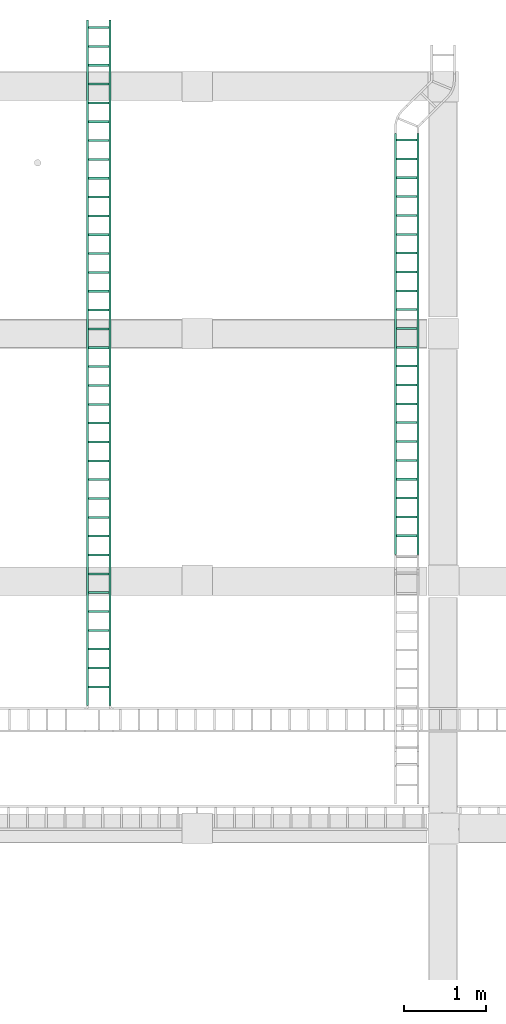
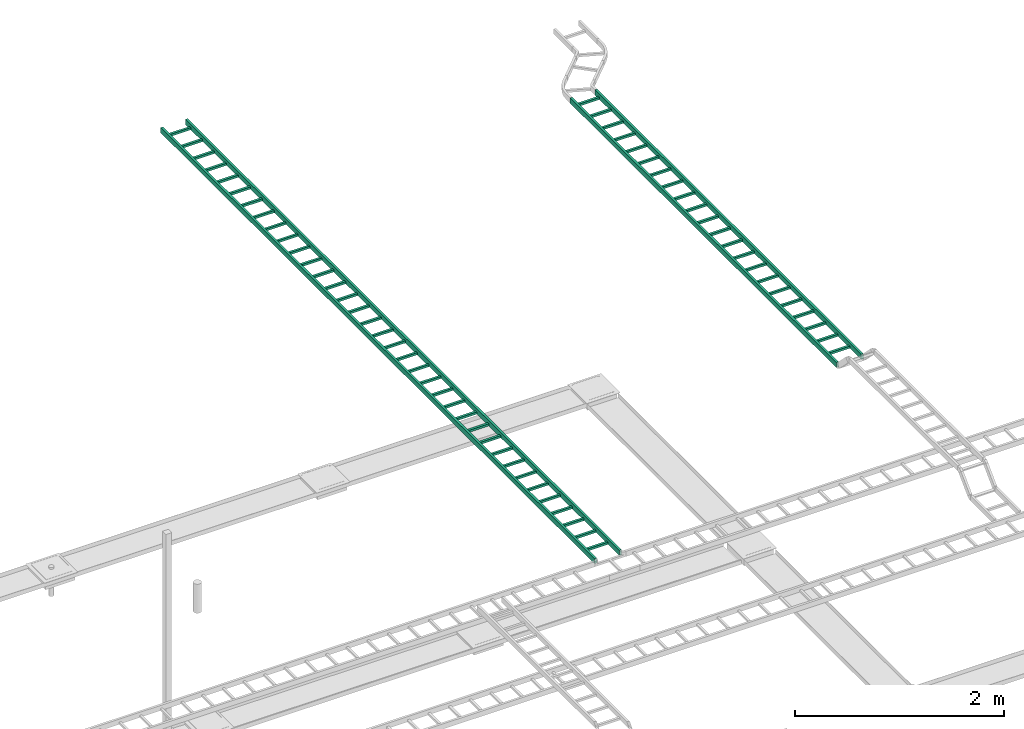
# One storey, part 13 of 16: 2 flow segments.
"""IFC2X3 building model written with IfcOpenShell, lengths in millimetres."""

from ifc_helpers import new_model, entity, si_unit, converted_unit, derived_unit, direction, frame, origin_with_axes, place, context, subcontext, project, spatial, open_shell, surface_model, source, transform, mapped, type_object, element, save


model = new_model("IFC2X3")

# Units and contexts
model_context = context("Model", 3, precision=0.01, world=frame((0.0, 4.29681676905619e-09, 0.0)), true_north=direction((4.01073788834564e-13, 1.0)))
plan_context = context("Plan", 3, precision=0.01, world=frame((0.0, 4.29681676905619e-09, 0.0)), true_north=direction((4.01073788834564e-13, 1.0)))
body_context = subcontext(model_context, "Body", "Model", "MODEL_VIEW")
ifc_project = project(units=[converted_unit("PLANEANGLEUNIT", "DEGREE", entity("IfcPositiveLengthMeasure", 0.0174532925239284), si_unit("PLANEANGLEUNIT", "RADIAN"), dimensions=[0, 0, 0, 0, 0, 0, 0]), si_unit("AREAUNIT", "SQUARE_METRE"), si_unit("LENGTHUNIT", "METRE", prefix="MILLI"), si_unit("MASSUNIT", "GRAM", prefix="KILO"), si_unit("POWERUNIT", "WATT"), si_unit("PRESSUREUNIT", "PASCAL"), si_unit("FORCEUNIT", "NEWTON", prefix="KILO"), si_unit("ELECTRICVOLTAGEUNIT", "VOLT"), si_unit("ELECTRICCURRENTUNIT", "AMPERE"), si_unit("THERMODYNAMICTEMPERATUREUNIT", "DEGREE_CELSIUS"), si_unit("TIMEUNIT", "SECOND"), si_unit("VOLUMEUNIT", "CUBIC_METRE"), derived_unit("LINEARVELOCITYUNIT", [(si_unit("LENGTHUNIT", "METRE"), 1), (si_unit("TIMEUNIT", "SECOND"), -1)]), derived_unit("VOLUMETRICFLOWRATEUNIT", [(si_unit("VOLUMEUNIT", "CUBIC_METRE"), 1), (si_unit("TIMEUNIT", "SECOND"), -1)]), derived_unit("THERMALTRANSMITTANCEUNIT", [(si_unit("POWERUNIT", "WATT"), 1), (si_unit("THERMODYNAMICTEMPERATUREUNIT", "KELVIN"), -1), (si_unit("AREAUNIT", "SQUARE_METRE"), -1)]), derived_unit("SOUNDPRESSUREUNIT", [(si_unit("PRESSUREUNIT", "PASCAL"), 1)])], contexts=[model_context, plan_context])

# Site, building, storey
site_placement = place(None, frame((0.0, -4.29681676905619e-09, 0.0), z_axis=(0.0, 0.0, 1.0), x_axis=(1.0, 0.0, 0.0)))
site = spatial("IfcSite", under=ifc_project, at=site_placement, Name="ENGM", CompositionType="ELEMENT")
building_placement = place(site_placement, frame((0.0, 4.29681676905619e-09, 0.0), z_axis=(0.0, 0.0, 1.0), x_axis=(1.0, 0.0, 0.0)))
building = spatial("IfcBuilding", under=site, at=building_placement, Name="TS", CompositionType="ELEMENT")
storey_placement = place(building_placement, frame((0.0, 0.0, 210900.0), z_axis=(0.0, 0.0, 1.0), x_axis=(1.0, 0.0, 0.0)))
storey = spatial("IfcBuildingStorey", under=building, at=storey_placement, Name="Nivå F", CompositionType="ELEMENT", Elevation=210900.0)

# Flow segments
cable_carrier_segment_type = type_object("IfcCableCarrierSegmentType", Name="Kabelbro", PredefinedType="CABLELADDERSEGMENT")
shared_shape_1 = source(origin_with_axes(), body_context, "Body", "SurfaceModel", [
    surface_model("IfcShellBasedSurfaceModel", [(241.30001, -124.6, -4.6), (241.30001, -124.6, -30.0), (241.30001, 124.6, -30.0), (241.30001, 124.6, -4.6), (215.89999, -124.6, -4.6), (215.89999, 124.6, -4.6), (215.89999, -124.6, -30.0), (215.89999, 124.6, -30.0), (469.89999, -124.6, -4.6), (469.89999, -124.6, -30.0), (469.89999, 124.6, -30.0), (469.89999, 124.6, -4.6), (444.50001, -124.6, -4.6), (444.50001, 124.6, -4.6), (444.50001, -124.6, -30.0), (444.50001, 124.6, -30.0), (698.50002, -124.6, -4.6), (698.50002, -124.6, -30.0), (698.50002, 124.6, -30.0), (698.50002, 124.6, -4.6), (673.09998, -124.6, -4.6), (673.09998, 124.6, -4.6), (673.09998, -124.6, -30.0), (673.09998, 124.6, -30.0), (927.10002, -124.6, -4.6), (927.10002, -124.6, -30.0), (927.10002, 124.6, -30.0), (927.10002, 124.6, -4.6), (901.69998, -124.6, -4.6), (901.69998, 124.6, -4.6), (901.69998, -124.6, -30.0), (901.69998, 124.6, -30.0), (1155.70002, -124.6, -4.6), (1155.70002, -124.6, -30.0), (1155.70002, 124.6, -30.0), (1155.70002, 124.6, -4.6), (1130.29998, -124.6, -4.6), (1130.29998, 124.6, -4.6), (1130.29998, -124.6, -30.0), (1130.29998, 124.6, -30.0), (1384.29995, -124.6, -4.6), (1384.29995, -124.6, -30.0), (1384.29995, 124.6, -30.0), (1384.29995, 124.6, -4.6), (1358.90005, -124.6, -4.6), (1358.90005, 124.6, -4.6), (1358.90005, -124.6, -30.0), (1358.90005, 124.6, -30.0), (1612.89995, -124.6, -4.6), (1612.89995, -124.6, -30.0), (1612.89995, 124.6, -30.0), (1612.89995, 124.6, -4.6), (1587.50005, -124.6, -4.6), (1587.50005, 124.6, -4.6), (1587.50005, -124.6, -30.0), (1587.50005, 124.6, -30.0), (1841.49995, -124.6, -4.6), (1841.49995, -124.6, -30.0), (1841.49995, 124.6, -30.0), (1841.49995, 124.6, -4.6), (1816.10005, -124.6, -4.6), (1816.10005, 124.6, -4.6), (1816.10005, -124.6, -30.0), (1816.10005, 124.6, -30.0), (2070.09995, -124.6, -4.6), (2070.09995, -124.6, -30.0), (2070.09995, 124.6, -30.0), (2070.09995, 124.6, -4.6), (2044.70005, -124.6, -4.6), (2044.70005, 124.6, -4.6), (2044.70005, -124.6, -30.0), (2044.70005, 124.6, -30.0), (2298.69995, -124.6, -4.6), (2298.69995, -124.6, -30.0), (2298.69995, 124.6, -30.0), (2298.69995, 124.6, -4.6), (2273.30005, -124.6, -4.6), (2273.30005, 124.6, -4.6), (2273.30005, -124.6, -30.0), (2273.30005, 124.6, -30.0), (2527.3001, -124.6, -4.6), (2527.3001, -124.6, -30.0), (2527.3001, 124.6, -30.0), (2527.3001, 124.6, -4.6), (2501.8999, -124.6, -4.6), (2501.8999, 124.6, -4.6), (2501.8999, -124.6, -30.0), (2501.8999, 124.6, -30.0), (2755.9001, -124.6, -4.6), (2755.9001, -124.6, -30.0), (2755.9001, 124.6, -30.0), (2755.9001, 124.6, -4.6), (2730.4999, -124.6, -4.6), (2730.4999, 124.6, -4.6), (2730.4999, -124.6, -30.0), (2730.4999, 124.6, -30.0), (2984.5001, -124.6, -4.6), (2984.5001, -124.6, -30.0), (2984.5001, 124.6, -30.0), (2984.5001, 124.6, -4.6), (2959.0999, -124.6, -4.6), (2959.0999, 124.6, -4.6), (2959.0999, -124.6, -30.0), (2959.0999, 124.6, -30.0), (3213.1001, -124.6, -4.6), (3213.1001, -124.6, -30.0), (3213.1001, 124.6, -30.0), (3213.1001, 124.6, -4.6), (3187.6999, -124.6, -4.6), (3187.6999, 124.6, -4.6), (3187.6999, -124.6, -30.0), (3187.6999, 124.6, -30.0), (3441.7001, -124.6, -4.6), (3441.7001, -124.6, -30.0), (3441.7001, 124.6, -30.0), (3441.7001, 124.6, -4.6), (3416.2999, -124.6, -4.6), (3416.2999, 124.6, -4.6), (3416.2999, -124.6, -30.0), (3416.2999, 124.6, -30.0), (3670.3001, -124.6, -4.6), (3670.3001, -124.6, -30.0), (3670.3001, 124.6, -30.0), (3670.3001, 124.6, -4.6), (3644.8999, -124.6, -4.6), (3644.8999, 124.6, -4.6), (3644.8999, -124.6, -30.0), (3644.8999, 124.6, -30.0), (3898.9001, -124.6, -4.6), (3898.9001, -124.6, -30.0), (3898.9001, 124.6, -30.0), (3898.9001, 124.6, -4.6), (3873.4999, -124.6, -4.6), (3873.4999, 124.6, -4.6), (3873.4999, -124.6, -30.0), (3873.4999, 124.6, -30.0), (4127.5001, -124.6, -4.6), (4127.5001, -124.6, -30.0), (4127.5001, 124.6, -30.0), (4127.5001, 124.6, -4.6), (4102.0999, -124.6, -4.6), (4102.0999, 124.6, -4.6), (4102.0999, -124.6, -30.0), (4102.0999, 124.6, -30.0), (4356.1001, -124.6, -4.6), (4356.1001, -124.6, -30.0), (4356.1001, 124.6, -30.0), (4356.1001, 124.6, -4.6), (4330.6999, -124.6, -4.6), (4330.6999, 124.6, -4.6), (4330.6999, -124.6, -30.0), (4330.6999, 124.6, -30.0), (4584.7001, -124.6, -4.6), (4584.7001, -124.6, -30.0), (4584.7001, 124.6, -30.0), (4584.7001, 124.6, -4.6), (4559.2999, -124.6, -4.6), (4559.2999, 124.6, -4.6), (4559.2999, -124.6, -30.0), (4559.2999, 124.6, -30.0), (4813.3001, -124.6, -4.6), (4813.3001, -124.6, -30.0), (4813.3001, 124.6, -30.0), (4813.3001, 124.6, -4.6), (4787.8999, -124.6, -4.6), (4787.8999, 124.6, -4.6), (4787.8999, -124.6, -30.0), (4787.8999, 124.6, -30.0), (5041.89981, -124.6, -4.6), (5041.89981, -124.6, -30.0), (5041.89981, 124.6, -30.0), (5041.89981, 124.6, -4.6), (5016.50019, -124.6, -4.6), (5016.50019, 124.6, -4.6), (5016.50019, -124.6, -30.0), (5016.50019, 124.6, -30.0), (5270.49981, -124.6, -4.6), (5270.49981, -124.6, -30.0), (5270.49981, 124.6, -30.0), (5270.49981, 124.6, -4.6), (5245.10019, -124.6, -4.6), (5245.10019, 124.6, -4.6), (5245.10019, -124.6, -30.0), (5245.10019, 124.6, -30.0), (0.0, -124.6, 30.0), (0.0, -124.6, -30.0), (0.0, -150.0, -30.0), (0.0, -150.0, 30.0), (0.0, 150.0, 30.0), (0.0, 150.0, -30.0), (0.0, 124.6, -30.0), (0.0, 124.6, 30.0), (5473.70019, -124.6, -30.0), (5499.09981, -124.6, -30.0), (5499.09981, -124.6, -4.6), (5473.70019, -124.6, -4.6), (5499.09981, 124.6, -4.6), (5499.09981, 124.6, -30.0), (5473.70019, 124.6, -30.0), (5473.70019, 124.6, -4.6), (5702.30019, -124.6, -30.0), (5727.69981, -124.6, -30.0), (5727.69981, -124.6, -4.6), (5702.30019, -124.6, -4.6), (5727.69981, 124.6, -4.6), (5727.69981, 124.6, -30.0), (5702.30019, 124.6, -30.0), (5702.30019, 124.6, -4.6), (5930.90019, -124.6, -30.0), (5956.29981, -124.6, -30.0), (5956.29981, -124.6, -4.6), (5930.90019, -124.6, -4.6), (5956.29981, 124.6, -4.6), (5956.29981, 124.6, -30.0), (5930.90019, 124.6, -30.0), (5930.90019, 124.6, -4.6), (6159.50019, -124.6, -30.0), (6184.89981, -124.6, -30.0), (6184.89981, -124.6, -4.6), (6159.50019, -124.6, -4.6), (6184.89981, 124.6, -4.6), (6184.89981, 124.6, -30.0), (6159.50019, 124.6, -30.0), (6159.50019, 124.6, -4.6), (6388.10019, -124.6, -30.0), (6413.49981, -124.6, -30.0), (6413.49981, -124.6, -4.6), (6388.10019, -124.6, -4.6), (6413.49981, 124.6, -4.6), (6413.49981, 124.6, -30.0), (6388.10019, 124.6, -30.0), (6388.10019, 124.6, -4.6), (6616.70019, -124.6, -30.0), (6642.09981, -124.6, -30.0), (6642.09981, -124.6, -4.6), (6616.70019, -124.6, -4.6), (6642.09981, 124.6, -4.6), (6642.09981, 124.6, -30.0), (6616.70019, 124.6, -30.0), (6616.70019, 124.6, -4.6), (6845.30019, -124.6, -30.0), (6870.69981, -124.6, -30.0), (6870.69981, -124.6, -4.6), (6845.30019, -124.6, -4.6), (6870.69981, 124.6, -4.6), (6870.69981, 124.6, -30.0), (6845.30019, 124.6, -30.0), (6845.30019, 124.6, -4.6), (7073.90019, -124.6, -30.0), (7099.29981, -124.6, -30.0), (7099.29981, -124.6, -4.6), (7073.90019, -124.6, -4.6), (7099.29981, 124.6, -4.6), (7099.29981, 124.6, -30.0), (7073.90019, 124.6, -30.0), (7073.90019, 124.6, -4.6), (7302.50019, -124.6, -30.0), (7327.89981, -124.6, -30.0), (7327.89981, -124.6, -4.6), (7302.50019, -124.6, -4.6), (7327.89981, 124.6, -4.6), (7327.89981, 124.6, -30.0), (7302.50019, 124.6, -30.0), (7302.50019, 124.6, -4.6), (7556.49981, -124.6, -4.6), (7556.49981, -124.6, -30.0), (7556.49981, 124.6, -30.0), (7556.49981, 124.6, -4.6), (7531.10019, -124.6, -4.6), (7531.10019, 124.6, -4.6), (7531.10019, -124.6, -30.0), (7531.10019, 124.6, -30.0), (7785.09981, -124.6, -4.6), (7785.09981, -124.6, -30.0), (7785.09981, 124.6, -30.0), (7785.09981, 124.6, -4.6), (7759.70019, -124.6, -4.6), (7759.70019, 124.6, -4.6), (7759.70019, -124.6, -30.0), (7759.70019, 124.6, -30.0), (8013.69981, -124.6, -4.6), (8013.69981, -124.6, -30.0), (8013.69981, 124.6, -30.0), (8013.69981, 124.6, -4.6), (7988.30019, -124.6, -4.6), (7988.30019, 124.6, -4.6), (7988.30019, -124.6, -30.0), (7988.30019, 124.6, -30.0), (8242.29981, -124.6, -4.6), (8242.29981, -124.6, -30.0), (8242.29981, 124.6, -30.0), (8242.29981, 124.6, -4.6), (8216.90019, -124.6, -4.6), (8216.90019, 124.6, -4.6), (8216.90019, -124.6, -30.0), (8216.90019, 124.6, -30.0), (8321.04035, -150.0, -30.0), (8321.04035, -124.6, -30.0), (8321.04035, -124.6, 30.0), (8321.04035, -150.0, 30.0), (8321.04035, 124.6, -30.0), (8321.04035, 150.0, -30.0), (8321.04035, 150.0, 30.0), (8321.04035, 124.6, 30.0)], [open_shell([[[0, 1, 2]], [[2, 3, 0]], [[4, 0, 5]], [[3, 5, 0]], [[6, 4, 5]], [[5, 7, 6]], [[1, 6, 2]], [[7, 2, 6]], [[8, 9, 10]], [[10, 11, 8]], [[12, 8, 13]], [[11, 13, 8]], [[14, 12, 13]], [[13, 15, 14]], [[9, 14, 10]], [[15, 10, 14]], [[16, 17, 18]], [[18, 19, 16]], [[20, 16, 21]], [[19, 21, 16]], [[22, 20, 21]], [[21, 23, 22]], [[17, 22, 18]], [[23, 18, 22]], [[24, 25, 26]], [[26, 27, 24]], [[28, 24, 29]], [[27, 29, 24]], [[30, 28, 29]], [[29, 31, 30]], [[25, 30, 26]], [[31, 26, 30]], [[32, 33, 34]], [[34, 35, 32]], [[36, 32, 37]], [[35, 37, 32]], [[38, 36, 37]], [[37, 39, 38]], [[33, 38, 34]], [[39, 34, 38]], [[40, 41, 42]], [[42, 43, 40]], [[44, 40, 45]], [[43, 45, 40]], [[46, 44, 45]], [[45, 47, 46]], [[41, 46, 42]], [[47, 42, 46]], [[48, 49, 50]], [[50, 51, 48]], [[52, 48, 53]], [[51, 53, 48]], [[54, 52, 53]], [[53, 55, 54]], [[49, 54, 50]], [[55, 50, 54]], [[56, 57, 58]], [[58, 59, 56]], [[60, 56, 61]], [[59, 61, 56]], [[62, 60, 61]], [[61, 63, 62]], [[57, 62, 58]], [[63, 58, 62]], [[64, 65, 66]], [[66, 67, 64]], [[68, 64, 69]], [[67, 69, 64]], [[70, 68, 69]], [[69, 71, 70]], [[65, 70, 66]], [[71, 66, 70]], [[72, 73, 74]], [[74, 75, 72]], [[76, 72, 77]], [[75, 77, 72]], [[78, 76, 77]], [[77, 79, 78]], [[73, 78, 74]], [[79, 74, 78]], [[80, 81, 82]], [[82, 83, 80]], [[84, 80, 85]], [[83, 85, 80]], [[86, 84, 85]], [[85, 87, 86]], [[81, 86, 82]], [[87, 82, 86]], [[88, 89, 90]], [[90, 91, 88]], [[92, 88, 93]], [[91, 93, 88]], [[94, 92, 93]], [[93, 95, 94]], [[89, 94, 90]], [[95, 90, 94]], [[96, 97, 98]], [[98, 99, 96]], [[100, 96, 101]], [[99, 101, 96]], [[102, 100, 101]], [[101, 103, 102]], [[97, 102, 98]], [[103, 98, 102]], [[104, 105, 106]], [[106, 107, 104]], [[108, 104, 109]], [[107, 109, 104]], [[110, 108, 109]], [[109, 111, 110]], [[105, 110, 106]], [[111, 106, 110]], [[112, 113, 114]], [[114, 115, 112]], [[116, 112, 117]], [[115, 117, 112]], [[118, 116, 117]], [[117, 119, 118]], [[113, 118, 114]], [[119, 114, 118]], [[120, 121, 122]], [[122, 123, 120]], [[124, 120, 125]], [[123, 125, 120]], [[126, 124, 125]], [[125, 127, 126]], [[121, 126, 122]], [[127, 122, 126]], [[128, 129, 130]], [[130, 131, 128]], [[132, 128, 133]], [[131, 133, 128]], [[134, 132, 133]], [[133, 135, 134]], [[129, 134, 130]], [[135, 130, 134]], [[136, 137, 138]], [[138, 139, 136]], [[140, 136, 141]], [[139, 141, 136]], [[142, 140, 141]], [[141, 143, 142]], [[137, 142, 138]], [[143, 138, 142]], [[144, 145, 146]], [[146, 147, 144]], [[148, 144, 149]], [[147, 149, 144]], [[150, 148, 149]], [[149, 151, 150]], [[145, 150, 146]], [[151, 146, 150]], [[152, 153, 154]], [[154, 155, 152]], [[156, 152, 157]], [[155, 157, 152]], [[158, 156, 157]], [[157, 159, 158]], [[153, 158, 154]], [[159, 154, 158]], [[160, 161, 162]], [[162, 163, 160]], [[164, 160, 165]], [[163, 165, 160]], [[166, 164, 165]], [[165, 167, 166]], [[161, 166, 162]], [[167, 162, 166]], [[168, 169, 170]], [[170, 171, 168]], [[172, 168, 173]], [[171, 173, 168]], [[174, 172, 173]], [[173, 175, 174]], [[169, 174, 170]], [[175, 170, 174]], [[176, 177, 178]], [[178, 179, 176]], [[180, 176, 181]], [[179, 181, 176]], [[182, 180, 181]], [[181, 183, 182]], [[177, 182, 178]], [[183, 178, 182]], [[184, 185, 186]], [[186, 187, 184]], [[188, 189, 190]], [[190, 191, 188]], [[6, 1, 0]], [[0, 4, 6]], [[3, 2, 7]], [[7, 5, 3]], [[14, 9, 8]], [[8, 12, 14]], [[11, 10, 15]], [[15, 13, 11]], [[22, 17, 16]], [[16, 20, 22]], [[19, 18, 23]], [[23, 21, 19]], [[30, 25, 24]], [[24, 28, 30]], [[27, 26, 31]], [[31, 29, 27]], [[38, 33, 32]], [[32, 36, 38]], [[35, 34, 39]], [[39, 37, 35]], [[46, 41, 40]], [[40, 44, 46]], [[43, 42, 47]], [[47, 45, 43]], [[54, 49, 48]], [[48, 52, 54]], [[51, 50, 55]], [[55, 53, 51]], [[62, 57, 56]], [[56, 60, 62]], [[59, 58, 63]], [[63, 61, 59]], [[70, 65, 64]], [[64, 68, 70]], [[67, 66, 71]], [[71, 69, 67]], [[78, 73, 72]], [[72, 76, 78]], [[75, 74, 79]], [[79, 77, 75]], [[86, 81, 80]], [[80, 84, 86]], [[83, 82, 87]], [[87, 85, 83]], [[94, 89, 88]], [[88, 92, 94]], [[91, 90, 95]], [[95, 93, 91]], [[102, 97, 96]], [[96, 100, 102]], [[99, 98, 103]], [[103, 101, 99]], [[110, 105, 104]], [[104, 108, 110]], [[107, 106, 111]], [[111, 109, 107]], [[118, 113, 112]], [[112, 116, 118]], [[115, 114, 119]], [[119, 117, 115]], [[126, 121, 120]], [[120, 124, 126]], [[123, 122, 127]], [[127, 125, 123]], [[134, 129, 128]], [[128, 132, 134]], [[131, 130, 135]], [[135, 133, 131]], [[142, 137, 136]], [[136, 140, 142]], [[139, 138, 143]], [[143, 141, 139]], [[150, 145, 144]], [[144, 148, 150]], [[147, 146, 151]], [[151, 149, 147]], [[158, 153, 152]], [[152, 156, 158]], [[155, 154, 159]], [[159, 157, 155]], [[166, 161, 160]], [[160, 164, 166]], [[163, 162, 167]], [[167, 165, 163]], [[174, 169, 168]], [[168, 172, 174]], [[171, 170, 175]], [[175, 173, 171]], [[182, 177, 176]], [[176, 180, 182]], [[179, 178, 183]], [[183, 181, 179]], [[192, 193, 194]], [[194, 195, 192]], [[196, 197, 198]], [[198, 199, 196]], [[194, 193, 197]], [[197, 196, 194]], [[195, 194, 199]], [[196, 199, 194]], [[192, 195, 199]], [[199, 198, 192]], [[193, 192, 197]], [[198, 197, 192]], [[200, 201, 202]], [[202, 203, 200]], [[204, 205, 206]], [[206, 207, 204]], [[202, 201, 205]], [[205, 204, 202]], [[203, 202, 207]], [[204, 207, 202]], [[200, 203, 207]], [[207, 206, 200]], [[201, 200, 205]], [[206, 205, 200]], [[208, 209, 210]], [[210, 211, 208]], [[212, 213, 214]], [[214, 215, 212]], [[210, 209, 213]], [[213, 212, 210]], [[211, 210, 215]], [[212, 215, 210]], [[208, 211, 215]], [[215, 214, 208]], [[209, 208, 213]], [[214, 213, 208]], [[216, 217, 218]], [[218, 219, 216]], [[220, 221, 222]], [[222, 223, 220]], [[218, 217, 221]], [[221, 220, 218]], [[219, 218, 223]], [[220, 223, 218]], [[216, 219, 223]], [[223, 222, 216]], [[217, 216, 221]], [[222, 221, 216]], [[224, 225, 226]], [[226, 227, 224]], [[228, 229, 230]], [[230, 231, 228]], [[226, 225, 229]], [[229, 228, 226]], [[227, 226, 231]], [[228, 231, 226]], [[224, 227, 231]], [[231, 230, 224]], [[225, 224, 229]], [[230, 229, 224]], [[232, 233, 234]], [[234, 235, 232]], [[236, 237, 238]], [[238, 239, 236]], [[234, 233, 237]], [[237, 236, 234]], [[235, 234, 239]], [[236, 239, 234]], [[232, 235, 239]], [[239, 238, 232]], [[233, 232, 237]], [[238, 237, 232]], [[240, 241, 242]], [[242, 243, 240]], [[244, 245, 246]], [[246, 247, 244]], [[242, 241, 245]], [[245, 244, 242]], [[243, 242, 247]], [[244, 247, 242]], [[240, 243, 247]], [[247, 246, 240]], [[241, 240, 245]], [[246, 245, 240]], [[248, 249, 250]], [[250, 251, 248]], [[252, 253, 254]], [[254, 255, 252]], [[250, 249, 253]], [[253, 252, 250]], [[251, 250, 255]], [[252, 255, 250]], [[248, 251, 255]], [[255, 254, 248]], [[249, 248, 253]], [[254, 253, 248]], [[256, 257, 258]], [[258, 259, 256]], [[260, 261, 262]], [[262, 263, 260]], [[258, 257, 261]], [[261, 260, 258]], [[259, 258, 263]], [[260, 263, 258]], [[256, 259, 263]], [[263, 262, 256]], [[257, 256, 261]], [[262, 261, 256]], [[264, 265, 266]], [[266, 267, 264]], [[268, 264, 269]], [[267, 269, 264]], [[270, 268, 269]], [[269, 271, 270]], [[265, 270, 266]], [[271, 266, 270]], [[272, 273, 274]], [[274, 275, 272]], [[276, 272, 277]], [[275, 277, 272]], [[278, 276, 277]], [[277, 279, 278]], [[273, 278, 274]], [[279, 274, 278]], [[280, 281, 282]], [[282, 283, 280]], [[284, 280, 285]], [[283, 285, 280]], [[286, 284, 285]], [[285, 287, 286]], [[281, 286, 282]], [[287, 282, 286]], [[288, 289, 290]], [[290, 291, 288]], [[292, 288, 293]], [[291, 293, 288]], [[294, 292, 293]], [[293, 295, 294]], [[289, 294, 290]], [[295, 290, 294]], [[270, 265, 264]], [[264, 268, 270]], [[267, 266, 271]], [[271, 269, 267]], [[278, 273, 272]], [[272, 276, 278]], [[275, 274, 279]], [[279, 277, 275]], [[286, 281, 280]], [[280, 284, 286]], [[283, 282, 287]], [[287, 285, 283]], [[294, 289, 288]], [[288, 292, 294]], [[291, 290, 295]], [[295, 293, 291]], [[296, 297, 298]], [[298, 299, 296]], [[300, 301, 302]], [[302, 303, 300]], [[187, 186, 296]], [[296, 299, 187]], [[184, 187, 299]], [[299, 298, 184]], [[185, 184, 298]], [[298, 297, 185]], [[186, 185, 297]], [[297, 296, 186]], [[189, 188, 302]], [[302, 301, 189]], [[190, 189, 301]], [[301, 300, 190]], [[191, 190, 300]], [[300, 303, 191]], [[188, 191, 303]], [[303, 302, 188]]])]),
])
flow_segment_1_placement = place(storey_placement, frame((529313.60037, 453486.47234, 4050.0), z_axis=(0.0, 0.0, 1.0), x_axis=(0.0, 1.0, 0.0)))
element("IfcFlowSegment", 1, at=flow_segment_1_placement, inside=storey, type_object=cable_carrier_segment_type, Name="Kabelbro", context=body_context, shape_type="MappedRepresentation", body=[
    mapped(shared_shape_1, transform((0.0, 0.0, 0.0), scale=1.0)),
])
shared_shape_2 = source(origin_with_axes(), body_context, "Body", "SurfaceModel", [
    surface_model("IfcShellBasedSurfaceModel", [(241.30001, -124.6, -4.6), (241.30001, -124.6, -30.0), (241.30001, 124.6, -30.0), (241.30001, 124.6, -4.6), (215.89999, -124.6, -4.6), (215.89999, 124.6, -4.6), (215.89999, -124.6, -30.0), (215.89999, 124.6, -30.0), (469.89999, -124.6, -4.6), (469.89999, -124.6, -30.0), (469.89999, 124.6, -30.0), (469.89999, 124.6, -4.6), (444.50001, -124.6, -4.6), (444.50001, 124.6, -4.6), (444.50001, -124.6, -30.0), (444.50001, 124.6, -30.0), (698.50002, -124.6, -4.6), (698.50002, -124.6, -30.0), (698.50002, 124.6, -30.0), (698.50002, 124.6, -4.6), (673.09998, -124.6, -4.6), (673.09998, 124.6, -4.6), (673.09998, -124.6, -30.0), (673.09998, 124.6, -30.0), (927.10002, -124.6, -4.6), (927.10002, -124.6, -30.0), (927.10002, 124.6, -30.0), (927.10002, 124.6, -4.6), (901.69998, -124.6, -4.6), (901.69998, 124.6, -4.6), (901.69998, -124.6, -30.0), (901.69998, 124.6, -30.0), (1155.70002, -124.6, -4.6), (1155.70002, -124.6, -30.0), (1155.70002, 124.6, -30.0), (1155.70002, 124.6, -4.6), (1130.29998, -124.6, -4.6), (1130.29998, 124.6, -4.6), (1130.29998, -124.6, -30.0), (1130.29998, 124.6, -30.0), (1384.29995, -124.6, -4.6), (1384.29995, -124.6, -30.0), (1384.29995, 124.6, -30.0), (1384.29995, 124.6, -4.6), (1358.90005, -124.6, -4.6), (1358.90005, 124.6, -4.6), (1358.90005, -124.6, -30.0), (1358.90005, 124.6, -30.0), (1612.89995, -124.6, -4.6), (1612.89995, -124.6, -30.0), (1612.89995, 124.6, -30.0), (1612.89995, 124.6, -4.6), (1587.50005, -124.6, -4.6), (1587.50005, 124.6, -4.6), (1587.50005, -124.6, -30.0), (1587.50005, 124.6, -30.0), (1841.49995, -124.6, -4.6), (1841.49995, -124.6, -30.0), (1841.49995, 124.6, -30.0), (1841.49995, 124.6, -4.6), (1816.10005, -124.6, -4.6), (1816.10005, 124.6, -4.6), (1816.10005, -124.6, -30.0), (1816.10005, 124.6, -30.0), (2070.09995, -124.6, -4.6), (2070.09995, -124.6, -30.0), (2070.09995, 124.6, -30.0), (2070.09995, 124.6, -4.6), (2044.70005, -124.6, -4.6), (2044.70005, 124.6, -4.6), (2044.70005, -124.6, -30.0), (2044.70005, 124.6, -30.0), (2298.69995, -124.6, -4.6), (2298.69995, -124.6, -30.0), (2298.69995, 124.6, -30.0), (2298.69995, 124.6, -4.6), (2273.30005, -124.6, -4.6), (2273.30005, 124.6, -4.6), (2273.30005, -124.6, -30.0), (2273.30005, 124.6, -30.0), (2527.3001, -124.6, -4.6), (2527.3001, -124.6, -30.0), (2527.3001, 124.6, -30.0), (2527.3001, 124.6, -4.6), (2501.8999, -124.6, -4.6), (2501.8999, 124.6, -4.6), (2501.8999, -124.6, -30.0), (2501.8999, 124.6, -30.0), (2755.9001, -124.6, -4.6), (2755.9001, -124.6, -30.0), (2755.9001, 124.6, -30.0), (2755.9001, 124.6, -4.6), (2730.4999, -124.6, -4.6), (2730.4999, 124.6, -4.6), (2730.4999, -124.6, -30.0), (2730.4999, 124.6, -30.0), (2984.5001, -124.6, -4.6), (2984.5001, -124.6, -30.0), (2984.5001, 124.6, -30.0), (2984.5001, 124.6, -4.6), (2959.0999, -124.6, -4.6), (2959.0999, 124.6, -4.6), (2959.0999, -124.6, -30.0), (2959.0999, 124.6, -30.0), (3213.1001, -124.6, -4.6), (3213.1001, -124.6, -30.0), (3213.1001, 124.6, -30.0), (3213.1001, 124.6, -4.6), (3187.6999, -124.6, -4.6), (3187.6999, 124.6, -4.6), (3187.6999, -124.6, -30.0), (3187.6999, 124.6, -30.0), (3441.7001, -124.6, -4.6), (3441.7001, -124.6, -30.0), (3441.7001, 124.6, -30.0), (3441.7001, 124.6, -4.6), (3416.2999, -124.6, -4.6), (3416.2999, 124.6, -4.6), (3416.2999, -124.6, -30.0), (3416.2999, 124.6, -30.0), (3670.3001, -124.6, -4.6), (3670.3001, -124.6, -30.0), (3670.3001, 124.6, -30.0), (3670.3001, 124.6, -4.6), (3644.8999, -124.6, -4.6), (3644.8999, 124.6, -4.6), (3644.8999, -124.6, -30.0), (3644.8999, 124.6, -30.0), (3898.9001, -124.6, -4.6), (3898.9001, -124.6, -30.0), (3898.9001, 124.6, -30.0), (3898.9001, 124.6, -4.6), (3873.4999, -124.6, -4.6), (3873.4999, 124.6, -4.6), (3873.4999, -124.6, -30.0), (3873.4999, 124.6, -30.0), (4127.5001, -124.6, -4.6), (4127.5001, -124.6, -30.0), (4127.5001, 124.6, -30.0), (4127.5001, 124.6, -4.6), (4102.0999, -124.6, -4.6), (4102.0999, 124.6, -4.6), (4102.0999, -124.6, -30.0), (4102.0999, 124.6, -30.0), (4356.1001, -124.6, -4.6), (4356.1001, -124.6, -30.0), (4356.1001, 124.6, -30.0), (4356.1001, 124.6, -4.6), (4330.6999, -124.6, -4.6), (4330.6999, 124.6, -4.6), (4330.6999, -124.6, -30.0), (4330.6999, 124.6, -30.0), (4584.7001, -124.6, -4.6), (4584.7001, -124.6, -30.0), (4584.7001, 124.6, -30.0), (4584.7001, 124.6, -4.6), (4559.2999, -124.6, -4.6), (4559.2999, 124.6, -4.6), (4559.2999, -124.6, -30.0), (4559.2999, 124.6, -30.0), (4813.3001, -124.6, -4.6), (4813.3001, -124.6, -30.0), (4813.3001, 124.6, -30.0), (4813.3001, 124.6, -4.6), (4787.8999, -124.6, -4.6), (4787.8999, 124.6, -4.6), (4787.8999, -124.6, -30.0), (4787.8999, 124.6, -30.0), (5041.89981, -124.6, -4.6), (5041.89981, -124.6, -30.0), (5041.89981, 124.6, -30.0), (5041.89981, 124.6, -4.6), (5016.50019, -124.6, -4.6), (5016.50019, 124.6, -4.6), (5016.50019, -124.6, -30.0), (5016.50019, 124.6, -30.0), (0.0, -124.6, 30.0), (0.0, -124.6, -30.0), (0.0, -150.0, -30.0), (0.0, -150.0, 30.0), (0.0, 150.0, 30.0), (0.0, 150.0, -30.0), (0.0, 124.6, -30.0), (0.0, 124.6, 30.0), (5106.7941, -150.0, -30.0), (5106.7941, -124.6, -30.0), (5106.7941, -124.6, 30.0), (5106.7941, -150.0, 30.0), (5106.7941, 124.6, -30.0), (5106.7941, 150.0, -30.0), (5106.7941, 150.0, 30.0), (5106.7941, 124.6, 30.0)], [open_shell([[[0, 1, 2]], [[2, 3, 0]], [[4, 0, 5]], [[3, 5, 0]], [[6, 4, 5]], [[5, 7, 6]], [[1, 6, 2]], [[7, 2, 6]], [[8, 9, 10]], [[10, 11, 8]], [[12, 8, 13]], [[11, 13, 8]], [[14, 12, 13]], [[13, 15, 14]], [[9, 14, 10]], [[15, 10, 14]], [[16, 17, 18]], [[18, 19, 16]], [[20, 16, 21]], [[19, 21, 16]], [[22, 20, 21]], [[21, 23, 22]], [[17, 22, 18]], [[23, 18, 22]], [[24, 25, 26]], [[26, 27, 24]], [[28, 24, 29]], [[27, 29, 24]], [[30, 28, 29]], [[29, 31, 30]], [[25, 30, 26]], [[31, 26, 30]], [[32, 33, 34]], [[34, 35, 32]], [[36, 32, 37]], [[35, 37, 32]], [[38, 36, 37]], [[37, 39, 38]], [[33, 38, 34]], [[39, 34, 38]], [[40, 41, 42]], [[42, 43, 40]], [[44, 40, 45]], [[43, 45, 40]], [[46, 44, 45]], [[45, 47, 46]], [[41, 46, 42]], [[47, 42, 46]], [[48, 49, 50]], [[50, 51, 48]], [[52, 48, 53]], [[51, 53, 48]], [[54, 52, 53]], [[53, 55, 54]], [[49, 54, 50]], [[55, 50, 54]], [[56, 57, 58]], [[58, 59, 56]], [[60, 56, 61]], [[59, 61, 56]], [[62, 60, 61]], [[61, 63, 62]], [[57, 62, 58]], [[63, 58, 62]], [[64, 65, 66]], [[66, 67, 64]], [[68, 64, 69]], [[67, 69, 64]], [[70, 68, 69]], [[69, 71, 70]], [[65, 70, 66]], [[71, 66, 70]], [[72, 73, 74]], [[74, 75, 72]], [[76, 72, 77]], [[75, 77, 72]], [[78, 76, 77]], [[77, 79, 78]], [[73, 78, 74]], [[79, 74, 78]], [[80, 81, 82]], [[82, 83, 80]], [[84, 80, 85]], [[83, 85, 80]], [[86, 84, 85]], [[85, 87, 86]], [[81, 86, 82]], [[87, 82, 86]], [[88, 89, 90]], [[90, 91, 88]], [[92, 88, 93]], [[91, 93, 88]], [[94, 92, 93]], [[93, 95, 94]], [[89, 94, 90]], [[95, 90, 94]], [[96, 97, 98]], [[98, 99, 96]], [[100, 96, 101]], [[99, 101, 96]], [[102, 100, 101]], [[101, 103, 102]], [[97, 102, 98]], [[103, 98, 102]], [[104, 105, 106]], [[106, 107, 104]], [[108, 104, 109]], [[107, 109, 104]], [[110, 108, 109]], [[109, 111, 110]], [[105, 110, 106]], [[111, 106, 110]], [[112, 113, 114]], [[114, 115, 112]], [[116, 112, 117]], [[115, 117, 112]], [[118, 116, 117]], [[117, 119, 118]], [[113, 118, 114]], [[119, 114, 118]], [[120, 121, 122]], [[122, 123, 120]], [[124, 120, 125]], [[123, 125, 120]], [[126, 124, 125]], [[125, 127, 126]], [[121, 126, 122]], [[127, 122, 126]], [[128, 129, 130]], [[130, 131, 128]], [[132, 128, 133]], [[131, 133, 128]], [[134, 132, 133]], [[133, 135, 134]], [[129, 134, 130]], [[135, 130, 134]], [[136, 137, 138]], [[138, 139, 136]], [[140, 136, 141]], [[139, 141, 136]], [[142, 140, 141]], [[141, 143, 142]], [[137, 142, 138]], [[143, 138, 142]], [[144, 145, 146]], [[146, 147, 144]], [[148, 144, 149]], [[147, 149, 144]], [[150, 148, 149]], [[149, 151, 150]], [[145, 150, 146]], [[151, 146, 150]], [[152, 153, 154]], [[154, 155, 152]], [[156, 152, 157]], [[155, 157, 152]], [[158, 156, 157]], [[157, 159, 158]], [[153, 158, 154]], [[159, 154, 158]], [[160, 161, 162]], [[162, 163, 160]], [[164, 160, 165]], [[163, 165, 160]], [[166, 164, 165]], [[165, 167, 166]], [[161, 166, 162]], [[167, 162, 166]], [[168, 169, 170]], [[170, 171, 168]], [[172, 168, 173]], [[171, 173, 168]], [[174, 172, 173]], [[173, 175, 174]], [[169, 174, 170]], [[175, 170, 174]], [[176, 177, 178]], [[178, 179, 176]], [[180, 181, 182]], [[182, 183, 180]], [[6, 1, 0]], [[0, 4, 6]], [[3, 2, 7]], [[7, 5, 3]], [[14, 9, 8]], [[8, 12, 14]], [[11, 10, 15]], [[15, 13, 11]], [[22, 17, 16]], [[16, 20, 22]], [[19, 18, 23]], [[23, 21, 19]], [[30, 25, 24]], [[24, 28, 30]], [[27, 26, 31]], [[31, 29, 27]], [[38, 33, 32]], [[32, 36, 38]], [[35, 34, 39]], [[39, 37, 35]], [[46, 41, 40]], [[40, 44, 46]], [[43, 42, 47]], [[47, 45, 43]], [[54, 49, 48]], [[48, 52, 54]], [[51, 50, 55]], [[55, 53, 51]], [[62, 57, 56]], [[56, 60, 62]], [[59, 58, 63]], [[63, 61, 59]], [[70, 65, 64]], [[64, 68, 70]], [[67, 66, 71]], [[71, 69, 67]], [[78, 73, 72]], [[72, 76, 78]], [[75, 74, 79]], [[79, 77, 75]], [[86, 81, 80]], [[80, 84, 86]], [[83, 82, 87]], [[87, 85, 83]], [[94, 89, 88]], [[88, 92, 94]], [[91, 90, 95]], [[95, 93, 91]], [[102, 97, 96]], [[96, 100, 102]], [[99, 98, 103]], [[103, 101, 99]], [[110, 105, 104]], [[104, 108, 110]], [[107, 106, 111]], [[111, 109, 107]], [[118, 113, 112]], [[112, 116, 118]], [[115, 114, 119]], [[119, 117, 115]], [[126, 121, 120]], [[120, 124, 126]], [[123, 122, 127]], [[127, 125, 123]], [[134, 129, 128]], [[128, 132, 134]], [[131, 130, 135]], [[135, 133, 131]], [[142, 137, 136]], [[136, 140, 142]], [[139, 138, 143]], [[143, 141, 139]], [[150, 145, 144]], [[144, 148, 150]], [[147, 146, 151]], [[151, 149, 147]], [[158, 153, 152]], [[152, 156, 158]], [[155, 154, 159]], [[159, 157, 155]], [[166, 161, 160]], [[160, 164, 166]], [[163, 162, 167]], [[167, 165, 163]], [[174, 169, 168]], [[168, 172, 174]], [[171, 170, 175]], [[175, 173, 171]], [[184, 185, 186]], [[186, 187, 184]], [[188, 189, 190]], [[190, 191, 188]], [[179, 178, 184]], [[184, 187, 179]], [[176, 179, 187]], [[187, 186, 176]], [[177, 176, 186]], [[186, 185, 177]], [[178, 177, 185]], [[185, 184, 178]], [[181, 180, 190]], [[190, 189, 181]], [[182, 181, 189]], [[189, 188, 182]], [[183, 182, 188]], [[188, 191, 183]], [[180, 183, 191]], [[191, 190, 180]]])]),
])
flow_segment_2_placement = place(storey_placement, frame((533049.50798, 455320.71683, 3925.0), z_axis=(0.0, 0.0, 1.0), x_axis=(0.0, 1.0, 0.0)))
element("IfcFlowSegment", 2, at=flow_segment_2_placement, inside=storey, type_object=cable_carrier_segment_type, Name="Kabelbro", context=body_context, shape_type="MappedRepresentation", body=[
    mapped(shared_shape_2, transform((0.0, 0.0, 0.0), scale=1.0)),
])

save(model, "model.ifc")
